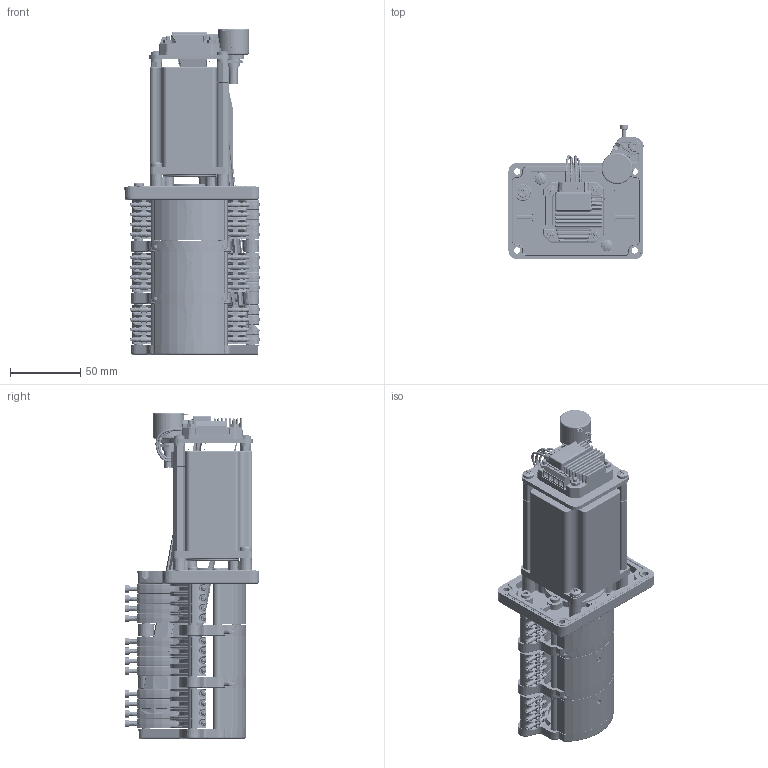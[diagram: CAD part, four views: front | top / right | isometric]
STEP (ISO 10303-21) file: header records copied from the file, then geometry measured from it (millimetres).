
FILE_DESCRIPTION (( 'STEP AP214' ), '1' );
FILE_NAME ('Assy_6K6003_A4p_R00.STEP', '2026-09-24T14:24:10', ( '' ), ( '' ), 'SwSTEP 2.0', 'SolidWorks 2021', '' );
FILE_SCHEMA (( 'AUTOMOTIVE_DESIGN' ));
Length unit declared in the file: millimetre
Products named in the file (1): Assy_6K6003_A4p_R00
Bounding box: 95.89 x 95.23 x 231.9 mm (x, y, z)
Volume: 440657.7 mm3; surface area: 193274.7 mm2
Topology: 25 solids, 44 shells, 7632 faces, 18285 edges, 10678 vertices
Faces by surface type: plane 2478, cylinder 2052, bspline 1445, cone 842, torus 524, sphere 291
Full cylindrical faces by diameter (mm): 1.5 x8, 1.6 x2, 1.65 x2, 1.8 x24, 2.2 x8, 2.4 x4, 2.5 x1, 2.7 x4, 2.8 x4, 3 x36, 3.2 x10, 3.4 x6, 4 x2, 4.022 x2, 4.5 x6, 5 x14, 5.5 x12, 6.05 x9, 6.1 x15, 6.33 x1, 7 x7, 7.5 x4, 7.96 x1, 8 x6, 8.55 x4, 8.6 x1, 9.35 x2, 10 x2, 10.5 x1, 14.22 x1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
Entity records: 273834 total; most frequent: CARTESIAN_POINT 117043, ORIENTED_EDGE 34744, DIRECTION 29233, EDGE_CURVE 17372, AXIS2_PLACEMENT_3D 11192, VERTEX_POINT 10489, EDGE_LOOP 8441, FACE_OUTER_BOUND 7901
